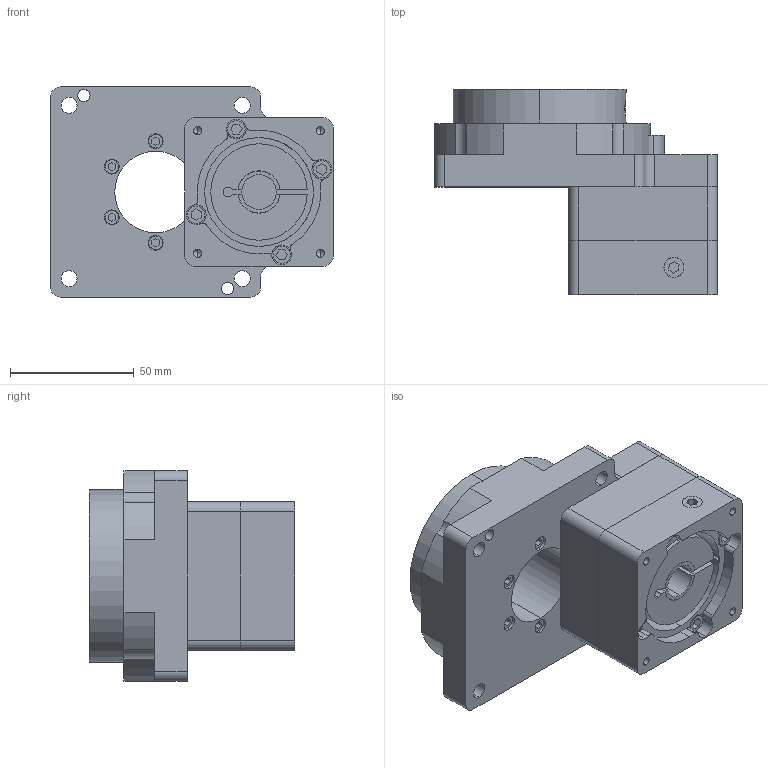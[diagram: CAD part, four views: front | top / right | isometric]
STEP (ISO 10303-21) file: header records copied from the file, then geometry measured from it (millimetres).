
FILE_DESCRIPTION (( 'STEP AP214' ), '1' );
FILE_NAME ('马拉力中空旋转平台MAK85-(400W伺服接口.STEP', '2024-05-09T11:04:13', ( '' ), ( '' ), 'SwSTEP 2.0', 'SolidWorks 2010', '' );
FILE_SCHEMA (( 'AUTOMOTIVE_DESIGN' ));
Length unit declared in the file: millimetre
Products named in the file (1): 马拉力中空旋转平台MAK85-(400W伺服接口
Bounding box: 114.4 x 83 x 85 mm (x, y, z)
Volume: 340286.8 mm3; surface area: 68793.9 mm2
Topology: 3 solids, 9 shells, 472 faces, 1206 edges, 780 vertices
Faces by surface type: cylinder 179, plane 174, bspline 87, cone 32
Entity records: 19701 total; most frequent: CARTESIAN_POINT 7518, ORIENTED_EDGE 2348, DIRECTION 2142, EDGE_CURVE 1174, VERTEX_POINT 780, AXIS2_PLACEMENT_3D 764, LINE 614, VECTOR 614
